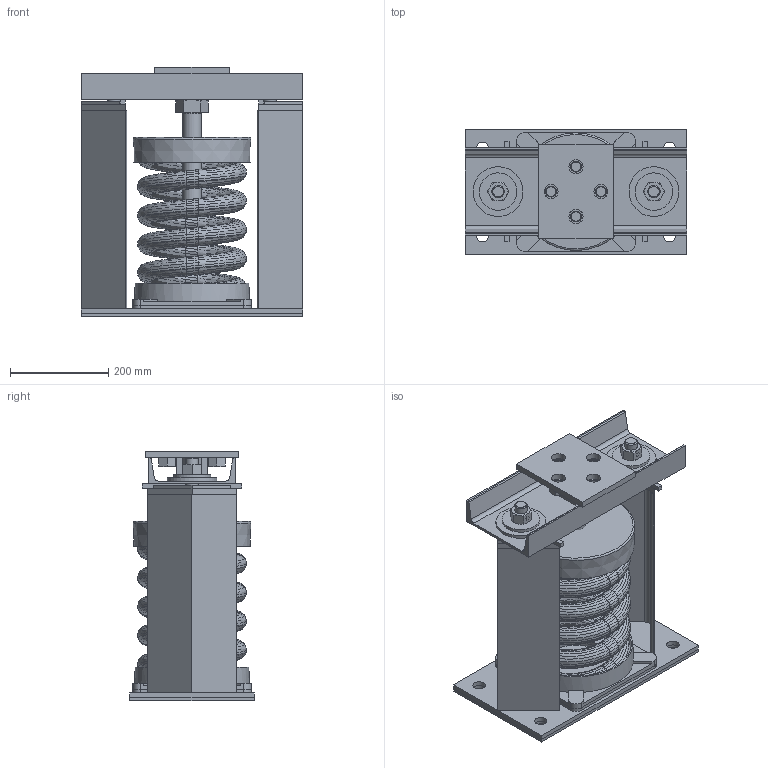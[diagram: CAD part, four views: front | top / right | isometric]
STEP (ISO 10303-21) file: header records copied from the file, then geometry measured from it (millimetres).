
FILE_DESCRIPTION(/* description */ (''),/* implementation_level */ '2;1');
FILE_NAME(/* name */ 'C:\001_Work\Designs\SLR-100 SERIES\SLR 100 SERIES (STOCK MOUNTS)\SLR 140, 162-164\SLR-140.stp',/* time_stamp */ '2016-01-19T10:33:20-05:00',/* author */ ('rramoutar'),/* organization */ ('Mason Industries Inc.'),/* preprocessor_version */ 'ST-DEVELOPER v15.6',/* originating_system */ 'Autodesk Inventor 2015',/* authorisation */ '');
FILE_SCHEMA (('CONFIG_CONTROL_DESIGN'));
Products named in the file (1): SLR-140 PER A-21773-6
Bounding box: 452.2 x 254 x 508 mm (x, y, z)
Volume: 7344046.6 mm3; surface area: 2577188.3 mm2
Topology: 32 solids, 32 shells, 1023 faces, 2214 edges, 1267 vertices
Faces by surface type: bspline 497, plane 322, cone 122, cylinder 78, torus 4
Full cylindrical faces by diameter (mm): 9.525 x2, 15.875 x8, 16.307 x1, 19.177 x4, 21.971 x2, 25.4 x10, 25.959 x2, 26.987 x4, 28.575 x4, 34.131 x1, 38.1 x3, 44.45 x2, 50.8 x4, 57.15 x1, 76.2 x2, 101.6 x2, 139.7 x2, 225.425 x1, 227.012 x1
Entity records: 46968 total; most frequent: CARTESIAN_POINT 28294, ORIENTED_EDGE 4210, DIRECTION 2242, EDGE_CURVE 2105, VERTEX_POINT 1238, EDGE_LOOP 1185, STYLED_ITEM 1055, FACE_OUTER_BOUND 1023
